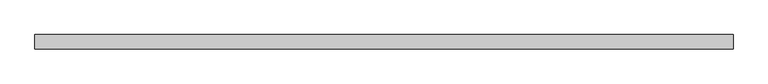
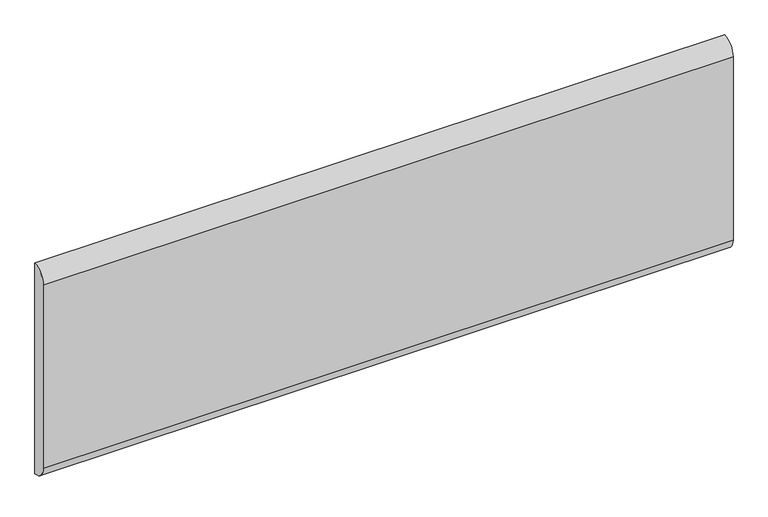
"""IFC4 building model written with IfcOpenShell, lengths in millimetres: furniture geometry."""

from ifc_helpers import new_model, si_unit, point, frame, frame_2d, origin, place, context, project, spatial, polyline, circle_curve, trimmed, segment, composite_curve, outline, extrude, source, transform, mapped, element, save


def furniture_cb78dd66(model_context):
    return source(origin(), model_context, "Body", "SweptSolid", [
        extrude(outline(composite_curve([segment(trimmed(circle_curve(frame_2d((12.7, 812.8)), 25.4), [point((12.7, 787.4))], [point((-12.7, 812.8))], False, "CARTESIAN"), True, "CONTINUOUS"), segment(polyline([(-12.7, 812.8), (-12.7, 1155.7)]), True, "CONTINUOUS"), segment(trimmed(circle_curve(frame_2d((12.7, 1155.7)), 25.4), [point((-12.7, 1155.7))], [point((12.7, 1181.1))], False, "CARTESIAN"), True, "CONTINUOUS"), segment(polyline([(12.7, 1181.1), (12.7, 787.4)]), True, "CONTINUOUS")], self_intersect=False)), frame((-609.6, 0.0, 0.0), z_axis=(1.0, 0.0, 0.0), x_axis=(0.0, 1.0, 0.0)), (0.0, 0.0, 1.0), 1219.2),
    ])


if __name__ == "__main__":
    model = new_model("IFC4")
    model_context = context("Model", 3, world=origin())
    ifc_project = project(units=[si_unit("LENGTHUNIT", "METRE", prefix="MILLI")], contexts=[model_context])
    site = spatial("IfcSite", under=ifc_project)
    building = spatial("IfcBuilding", under=site)
    placement = place(None, origin())
    furniture_shape = furniture_cb78dd66(model_context)
    element("IfcFurniture", 1, ObjectType="HermanMiller_ActionOffice_A3410_B-StyleTackboard : 16\"H x 48\"W", at=placement, inside=building, context=model_context, shape_type="MappedRepresentation", body=[
        mapped(furniture_shape, transform((0.0, 0.0, 0.0), x_axis=(1.0, 0.0, 0.0), y_axis=(0.0, 1.0, 0.0), z_axis=(0.0, 0.0, 1.0))),
    ])
    save(model, "model.ifc")
